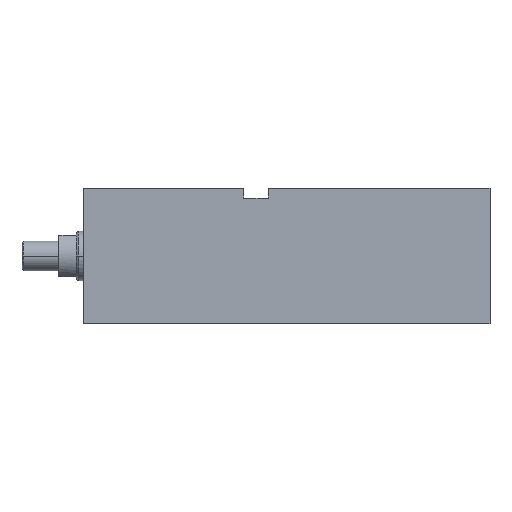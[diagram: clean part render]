
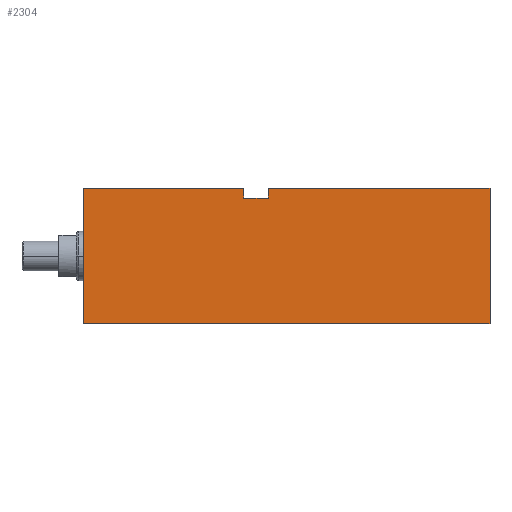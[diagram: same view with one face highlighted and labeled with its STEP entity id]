
A CAD part, left-side view. The second image highlights one B-rep face of the part: STEP entity #2304.
In plain terms, the highlighted planar face has unit normal (-1, 0, 0).
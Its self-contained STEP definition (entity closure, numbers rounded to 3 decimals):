
#16 = LINE ( 'NONE', #2879, #2524 ) ;
#108 = DIRECTION ( 'NONE',  ( 1., 0., 0. ) ) ;
#238 = ORIENTED_EDGE ( 'NONE', *, *, #1581, .T. ) ;
#278 = ORIENTED_EDGE ( 'NONE', *, *, #592, .F. ) ;
#318 = LINE ( 'NONE', #856, #537 ) ;
#402 = CARTESIAN_POINT ( 'NONE',  ( -37.5, 65., -27.5 ) ) ;
#537 = VECTOR ( 'NONE', #2557, 1000. ) ;
#580 = DIRECTION ( 'NONE',  ( 0., 0., 1. ) ) ;
#592 = EDGE_CURVE ( 'NONE', #1800, #1209, #1372, .T. ) ;
#596 = VECTOR ( 'NONE', #1008, 1000. ) ;
#692 = CARTESIAN_POINT ( 'NONE',  ( -37.5, 100., 27.5 ) ) ;
#719 = EDGE_CURVE ( 'NONE', #1706, #2967, #3065, .T. ) ;
#803 = CARTESIAN_POINT ( 'NONE',  ( -37.5, 165., 27.5 ) ) ;
#847 = CARTESIAN_POINT ( 'NONE',  ( -37.5, 0., -27.5 ) ) ;
#856 = CARTESIAN_POINT ( 'NONE',  ( -37.5, 65., 27.5 ) ) ;
#866 = EDGE_LOOP ( 'NONE', ( #278, #2778, #1501, #959, #2156, #1533, #238, #1456 ) ) ;
#959 = ORIENTED_EDGE ( 'NONE', *, *, #719, .T. ) ;
#1008 = DIRECTION ( 'NONE',  ( 0., 0., 1. ) ) ;
#1024 = CARTESIAN_POINT ( 'NONE',  ( -37.5, 90., 23.5 ) ) ;
#1070 = DIRECTION ( 'NONE',  ( 0., -1., 0. ) ) ;
#1184 = DIRECTION ( 'NONE',  ( 0., 0., 1. ) ) ;
#1209 = VERTEX_POINT ( 'NONE', #1381 ) ;
#1243 = VECTOR ( 'NONE', #1070, 1000. ) ;
#1249 = CARTESIAN_POINT ( 'NONE',  ( -37.5, 100., 23.5 ) ) ;
#1343 = LINE ( 'NONE', #2456, #596 ) ;
#1372 = LINE ( 'NONE', #2611, #1926 ) ;
#1381 = CARTESIAN_POINT ( 'NONE',  ( -37.5, 0., 27.5 ) ) ;
#1384 = CARTESIAN_POINT ( 'NONE',  ( -37.5, 165., -27.5 ) ) ;
#1456 = ORIENTED_EDGE ( 'NONE', *, *, #2333, .T. ) ;
#1493 = VERTEX_POINT ( 'NONE', #1024 ) ;
#1501 = ORIENTED_EDGE ( 'NONE', *, *, #1752, .F. ) ;
#1533 = ORIENTED_EDGE ( 'NONE', *, *, #3077, .F. ) ;
#1550 = VECTOR ( 'NONE', #580, 1000. ) ;
#1569 = CARTESIAN_POINT ( 'NONE',  ( -37.5, 65., -27.5 ) ) ;
#1578 = LINE ( 'NONE', #1249, #2785 ) ;
#1581 = EDGE_CURVE ( 'NONE', #2473, #2724, #1855, .T. ) ;
#1613 = LINE ( 'NONE', #847, #1550 ) ;
#1634 = VECTOR ( 'NONE', #1915, 1000. ) ;
#1693 = FACE_OUTER_BOUND ( 'NONE', #866, .T. ) ;
#1706 = VERTEX_POINT ( 'NONE', #2523 ) ;
#1752 = EDGE_CURVE ( 'NONE', #1706, #1493, #1578, .T. ) ;
#1799 = DIRECTION ( 'NONE',  ( 0., 0., -1. ) ) ;
#1800 = VERTEX_POINT ( 'NONE', #1803 ) ;
#1803 = CARTESIAN_POINT ( 'NONE',  ( -37.5, 90., 27.5 ) ) ;
#1855 = LINE ( 'NONE', #402, #1243 ) ;
#1915 = DIRECTION ( 'NONE',  ( 0., 0., 1. ) ) ;
#1926 = VECTOR ( 'NONE', #2675, 1000. ) ;
#2156 = ORIENTED_EDGE ( 'NONE', *, *, #2339, .F. ) ;
#2254 = AXIS2_PLACEMENT_3D ( 'NONE', #1569, #108, #1799 ) ;
#2264 = VERTEX_POINT ( 'NONE', #803 ) ;
#2304 = ADVANCED_FACE ( 'NONE', ( #1693 ), #2773, .F. ) ;
#2333 = EDGE_CURVE ( 'NONE', #2724, #1209, #1613, .T. ) ;
#2339 = EDGE_CURVE ( 'NONE', #2264, #2967, #318, .T. ) ;
#2456 = CARTESIAN_POINT ( 'NONE',  ( -37.5, 165., -27.5 ) ) ;
#2473 = VERTEX_POINT ( 'NONE', #1384 ) ;
#2523 = CARTESIAN_POINT ( 'NONE',  ( -37.5, 100., 23.5 ) ) ;
#2524 = VECTOR ( 'NONE', #1184, 1000. ) ;
#2533 = CARTESIAN_POINT ( 'NONE',  ( -37.5, 100., 23.5 ) ) ;
#2557 = DIRECTION ( 'NONE',  ( 0., -1., 0. ) ) ;
#2611 = CARTESIAN_POINT ( 'NONE',  ( -37.5, 65., 27.5 ) ) ;
#2675 = DIRECTION ( 'NONE',  ( 0., -1., 0. ) ) ;
#2694 = DIRECTION ( 'NONE',  ( 0., -1., 0. ) ) ;
#2724 = VERTEX_POINT ( 'NONE', #3127 ) ;
#2773 = PLANE ( 'NONE',  #2254 ) ;
#2778 = ORIENTED_EDGE ( 'NONE', *, *, #2961, .F. ) ;
#2785 = VECTOR ( 'NONE', #2694, 1000. ) ;
#2879 = CARTESIAN_POINT ( 'NONE',  ( -37.5, 90., 23.5 ) ) ;
#2961 = EDGE_CURVE ( 'NONE', #1493, #1800, #16, .T. ) ;
#2967 = VERTEX_POINT ( 'NONE', #692 ) ;
#3065 = LINE ( 'NONE', #2533, #1634 ) ;
#3077 = EDGE_CURVE ( 'NONE', #2473, #2264, #1343, .T. ) ;
#3127 = CARTESIAN_POINT ( 'NONE',  ( -37.5, 0., -27.5 ) ) ;
